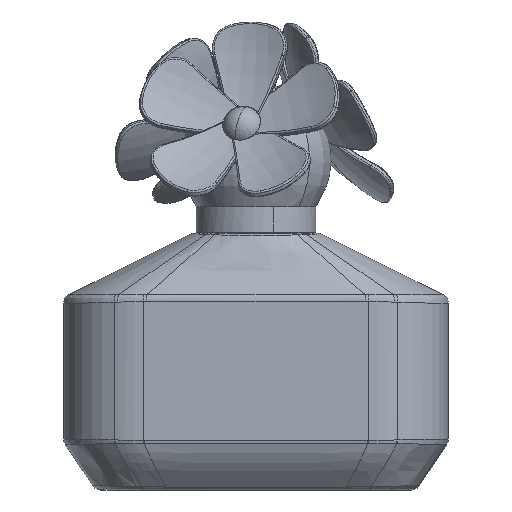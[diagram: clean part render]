
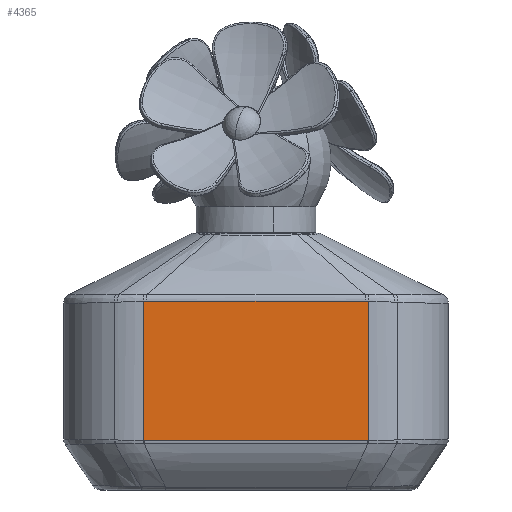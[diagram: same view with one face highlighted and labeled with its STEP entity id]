
A CAD part, front view. The second image highlights one B-rep face of the part: STEP entity #4365.
In plain terms, the highlighted planar face has unit normal (0, -1, 0).
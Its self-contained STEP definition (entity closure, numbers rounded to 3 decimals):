
#2690=CARTESIAN_POINT('Vertex',(-35.,-25.,0.412)) ;
#2716=CARTESIAN_POINT('Line Origine',(-35.,-25.,22.5)) ;
#2720=CARTESIAN_POINT('Vertex',(-35.,-25.,43.89)) ;
#3711=CARTESIAN_POINT('Vertex',(-34.844,-25.,0.41)) ;
#3715=CARTESIAN_POINT('Control Point',(-34.844,-25.,0.41)) ;
#3716=CARTESIAN_POINT('Control Point',(-34.875,-25.,0.41)) ;
#3717=CARTESIAN_POINT('Control Point',(-34.906,-25.,0.411)) ;
#3718=CARTESIAN_POINT('Control Point',(-34.938,-25.,0.411)) ;
#3719=CARTESIAN_POINT('Control Point',(-34.969,-25.,0.412)) ;
#3720=CARTESIAN_POINT('Control Point',(-35.,-25.,0.412)) ;
#4286=CARTESIAN_POINT('Axis2P3D Location',(0.,-25.,22.5)) ;
#4291=CARTESIAN_POINT('Line Origine',(35.,-25.,22.151)) ;
#4295=CARTESIAN_POINT('Vertex',(35.,-25.,43.89)) ;
#4297=CARTESIAN_POINT('Vertex',(35.,-25.,0.412)) ;
#4301=CARTESIAN_POINT('Control Point',(35.,-25.,43.89)) ;
#4302=CARTESIAN_POINT('Control Point',(34.828,-25.,43.899)) ;
#4303=CARTESIAN_POINT('Control Point',(34.656,-25.,43.906)) ;
#4304=CARTESIAN_POINT('Control Point',(34.485,-25.,43.911)) ;
#4305=CARTESIAN_POINT('Control Point',(34.297,-25.,43.915)) ;
#4306=CARTESIAN_POINT('Control Point',(34.111,-25.,43.916)) ;
#4307=CARTESIAN_POINT('Control Point',(34.071,-25.,43.916)) ;
#4308=CARTESIAN_POINT('Control Point',(34.053,-25.,43.916)) ;
#4309=CARTESIAN_POINT('Control Point',(34.035,-25.,43.916)) ;
#4310=CARTESIAN_POINT('Vertex',(34.035,-25.,43.916)) ;
#4314=CARTESIAN_POINT('Control Point',(34.035,-25.,43.916)) ;
#4315=CARTESIAN_POINT('Control Point',(30.291,-25.,43.917)) ;
#4316=CARTESIAN_POINT('Control Point',(26.572,-25.,43.917)) ;
#4317=CARTESIAN_POINT('Control Point',(22.805,-25.,43.918)) ;
#4318=CARTESIAN_POINT('Control Point',(9.256,-25.,43.919)) ;
#4319=CARTESIAN_POINT('Control Point',(-4.292,-25.,43.919)) ;
#4320=CARTESIAN_POINT('Control Point',(-14.439,-25.,43.918)) ;
#4321=CARTESIAN_POINT('Control Point',(-24.323,-25.,43.918)) ;
#4322=CARTESIAN_POINT('Control Point',(-34.035,-25.,43.916)) ;
#4323=CARTESIAN_POINT('Vertex',(-34.035,-25.,43.916)) ;
#4327=CARTESIAN_POINT('Control Point',(-34.035,-25.,43.916)) ;
#4328=CARTESIAN_POINT('Control Point',(-34.035,-25.,43.916)) ;
#4329=CARTESIAN_POINT('Control Point',(-34.036,-25.,43.916)) ;
#4330=CARTESIAN_POINT('Control Point',(-34.036,-25.,43.916)) ;
#4331=CARTESIAN_POINT('Control Point',(-34.227,-25.,43.916)) ;
#4332=CARTESIAN_POINT('Control Point',(-34.418,-25.,43.913)) ;
#4333=CARTESIAN_POINT('Control Point',(-34.612,-25.,43.908)) ;
#4334=CARTESIAN_POINT('Control Point',(-34.805,-25.,43.9)) ;
#4335=CARTESIAN_POINT('Control Point',(-35.,-25.,43.89)) ;
#4337=CARTESIAN_POINT('Line Origine',(0.,-25.,0.41)) ;
#4341=CARTESIAN_POINT('Vertex',(34.844,-25.,0.41)) ;
#4345=CARTESIAN_POINT('Control Point',(35.,-25.,0.412)) ;
#4346=CARTESIAN_POINT('Control Point',(34.992,-25.,0.412)) ;
#4347=CARTESIAN_POINT('Control Point',(34.983,-25.,0.412)) ;
#4348=CARTESIAN_POINT('Control Point',(34.975,-25.,0.412)) ;
#4349=CARTESIAN_POINT('Control Point',(34.944,-25.,0.411)) ;
#4350=CARTESIAN_POINT('Control Point',(34.913,-25.,0.411)) ;
#4351=CARTESIAN_POINT('Control Point',(34.89,-25.,0.411)) ;
#4352=CARTESIAN_POINT('Control Point',(34.867,-25.,0.41)) ;
#4353=CARTESIAN_POINT('Control Point',(34.844,-25.,0.41)) ;
#2717=DIRECTION('Vector Direction',(0.,0.,1.)) ;
#4287=DIRECTION('Axis2P3D Direction',(0.,-1.,0.)) ;
#4288=DIRECTION('Axis2P3D XDirection',(0.,0.,-1.)) ;
#4292=DIRECTION('Vector Direction',(0.,0.,-1.)) ;
#4338=DIRECTION('Vector Direction',(-1.,0.,0.)) ;
#4289=AXIS2_PLACEMENT_3D('Plane Axis2P3D',#4286,#4287,#4288) ;
#4356=ORIENTED_EDGE('',*,*,#4299,.F.) ;
#4357=ORIENTED_EDGE('',*,*,#4312,.F.) ;
#4358=ORIENTED_EDGE('',*,*,#4325,.F.) ;
#4359=ORIENTED_EDGE('',*,*,#4336,.F.) ;
#4360=ORIENTED_EDGE('',*,*,#2722,.T.) ;
#4361=ORIENTED_EDGE('',*,*,#3721,.T.) ;
#4362=ORIENTED_EDGE('',*,*,#4343,.T.) ;
#4363=ORIENTED_EDGE('',*,*,#4354,.T.) ;
#2718=VECTOR('Line Direction',#2717,1.) ;
#4293=VECTOR('Line Direction',#4292,1.) ;
#4339=VECTOR('Line Direction',#4338,1.) ;
#4365=ADVANCED_FACE('PartBody',(#4364),#4290,.T.) ;
#3714=B_SPLINE_CURVE_WITH_KNOTS('',5,(#3715,#3716,#3717,#3718,#3719,#3720),.UNSPECIFIED.,.F.,.U.,(6,6),(94.505,94.687),.UNSPECIFIED.) ;
#4300=B_SPLINE_CURVE_WITH_KNOTS('',5,(#4301,#4302,#4303,#4304,#4305,#4306,#4307,#4308,#4309),.UNSPECIFIED.,.F.,.U.,(6,3,6),(16.697,17.703,17.812),.UNSPECIFIED.) ;
#4313=B_SPLINE_CURVE_WITH_KNOTS('',5,(#4314,#4315,#4316,#4317,#4318,#4319,#4320,#4321,#4322),.UNSPECIFIED.,.F.,.U.,(6,3,6),(17.039,38.865,92.489),.UNSPECIFIED.) ;
#4326=B_SPLINE_CURVE_WITH_KNOTS('',5,(#4327,#4328,#4329,#4330,#4331,#4332,#4333,#4334,#4335),.UNSPECIFIED.,.F.,.U.,(6,3,6),(94.868,94.871,96.01),.UNSPECIFIED.) ;
#4344=B_SPLINE_CURVE_WITH_KNOTS('',5,(#4345,#4346,#4347,#4348,#4349,#4350,#4351,#4352,#4353),.UNSPECIFIED.,.F.,.U.,(6,3,6),(15.199,15.247,15.381),.UNSPECIFIED.) ;
#2722=EDGE_CURVE('',#2721,#2691,#2719,.F.) ;
#3721=EDGE_CURVE('',#2691,#3712,#3714,.F.) ;
#4299=EDGE_CURVE('',#4296,#4298,#4294,.T.) ;
#4312=EDGE_CURVE('',#4311,#4296,#4300,.F.) ;
#4325=EDGE_CURVE('',#4324,#4311,#4313,.F.) ;
#4336=EDGE_CURVE('',#2721,#4324,#4326,.F.) ;
#4343=EDGE_CURVE('',#3712,#4342,#4340,.F.) ;
#4354=EDGE_CURVE('',#4342,#4298,#4344,.F.) ;
#4355=EDGE_LOOP('',(#4356,#4357,#4358,#4359,#4360,#4361,#4362,#4363)) ;
#4364=FACE_OUTER_BOUND('',#4355,.T.) ;
#2719=LINE('Line',#2716,#2718) ;
#4294=LINE('Line',#4291,#4293) ;
#4340=LINE('Line',#4337,#4339) ;
#4290=PLANE('Plane',#4289) ;
#2691=VERTEX_POINT('',#2690) ;
#2721=VERTEX_POINT('',#2720) ;
#3712=VERTEX_POINT('',#3711) ;
#4296=VERTEX_POINT('',#4295) ;
#4298=VERTEX_POINT('',#4297) ;
#4311=VERTEX_POINT('',#4310) ;
#4324=VERTEX_POINT('',#4323) ;
#4342=VERTEX_POINT('',#4341) ;
